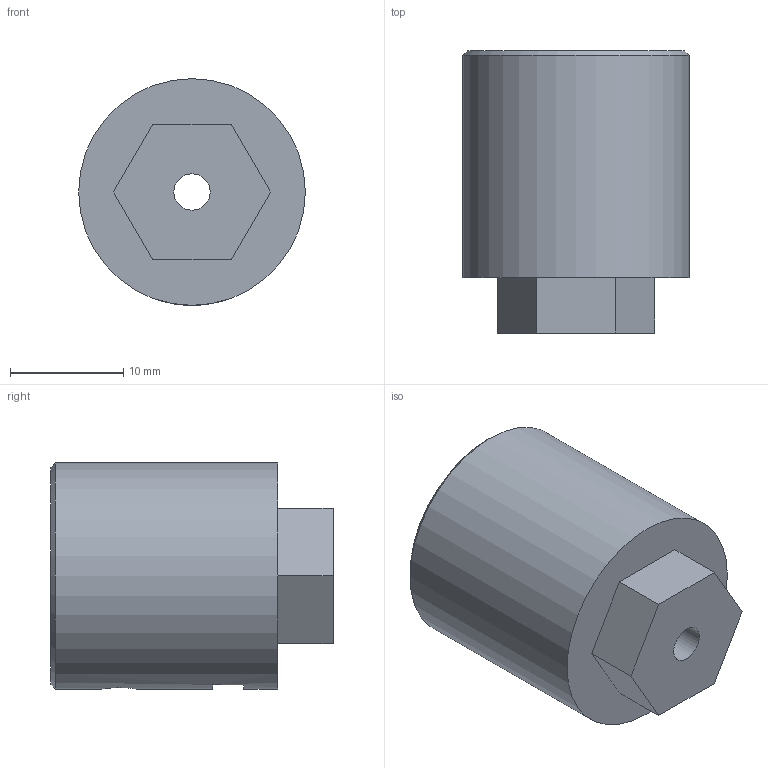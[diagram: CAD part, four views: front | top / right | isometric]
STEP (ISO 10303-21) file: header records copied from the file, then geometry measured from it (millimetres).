
FILE_DESCRIPTION(/* description */ (''),/* implementation_level */ '2;1');
FILE_NAME(/* name */ 'albero_ottonre_12x6.stp',/* time_stamp */ '2025-05-26T15:00:12+02:00',/* author */ ('R5800u'),/* organization */ (''),/* preprocessor_version */ 'ST-DEVELOPER v20',/* originating_system */ 'Autodesk Inventor 2025',/* authorisation */ '');
FILE_SCHEMA (('AUTOMOTIVE_DESIGN { 1 0 10303 214 3 1 1 }'));
Length unit declared in the file: millimetre
Products named in the file (1): albero_ottonre_12x6
Bounding box: 20 x 24.9 x 20 mm (x, y, z)
Volume: 6062.4 mm3; surface area: 2789.7 mm2
Topology: 1 solids, 1 shells, 29 faces, 73 edges, 49 vertices
Faces by surface type: plane 22, cylinder 6, cone 1
Full cylindrical faces by diameter (mm): 3.2 x2, 3.4 x2, 20 x1
Entity records: 973 total; most frequent: CARTESIAN_POINT 205, ORIENTED_EDGE 146, DIRECTION 144, EDGE_CURVE 73, LINE 52, VECTOR 52, VERTEX_POINT 49, AXIS2_PLACEMENT_3D 46
